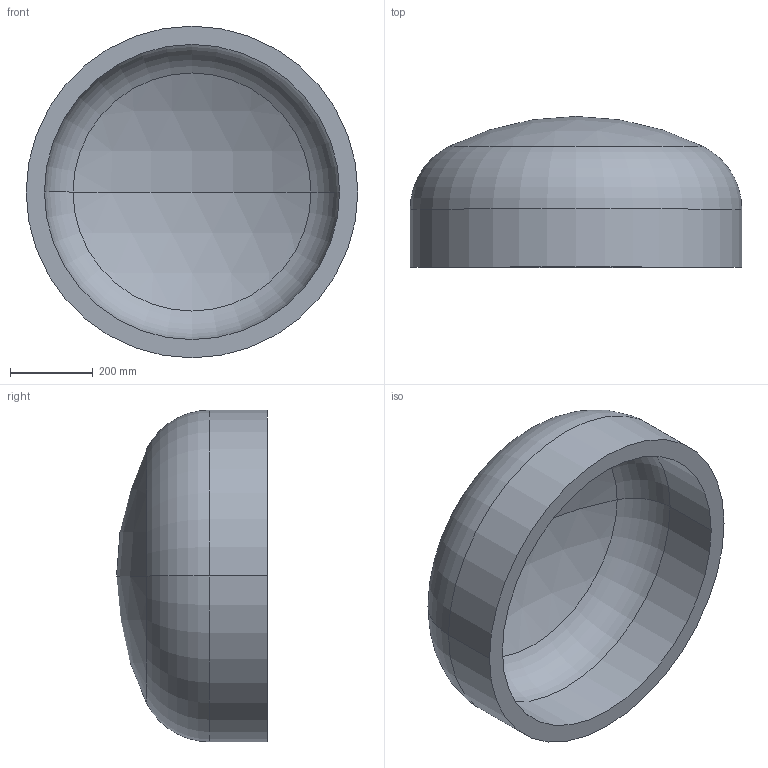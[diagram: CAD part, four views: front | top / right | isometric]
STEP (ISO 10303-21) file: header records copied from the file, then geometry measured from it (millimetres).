
FILE_DESCRIPTION (( 'STEP AP203' ), '1' );
FILE_NAME ('DIN 28013 Korbbogenform_-_Boden DIN 28013 - 800 x 140 - I - s=44.step', '2016-07-01T08:17:23', ( '' ), ( '' ), 'SwSTEP 2.0', 'SolidWorks 2013', '' );
FILE_SCHEMA (( 'CONFIG_CONTROL_DESIGN' ));
Length unit declared in the file: millimetre
Products named in the file (1): DIN 28013 Korbbogenform_-_Boden DIN 28013 - 800 x 140 - I - s=44
Bounding box: 800 x 363.71 x 800 mm (x, y, z)
Volume: 43265503.8 mm3; surface area: 2075170.1 mm2
Topology: 1 solids, 1 shells, 13 faces, 24 edges, 14 vertices
Faces by surface type: torus 4, cylinder 4, sphere 4, plane 1
Entity records: 407 total; most frequent: DIRECTION 72, CARTESIAN_POINT 52, ORIENTED_EDGE 48, AXIS2_PLACEMENT_3D 34, EDGE_CURVE 24, CIRCLE 20, EDGE_LOOP 14, VERTEX_POINT 14
